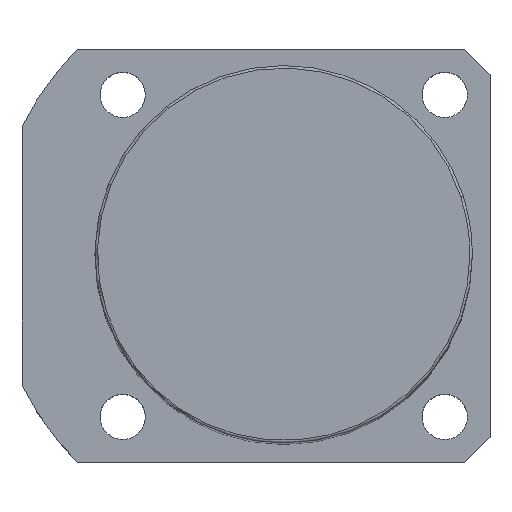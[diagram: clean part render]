
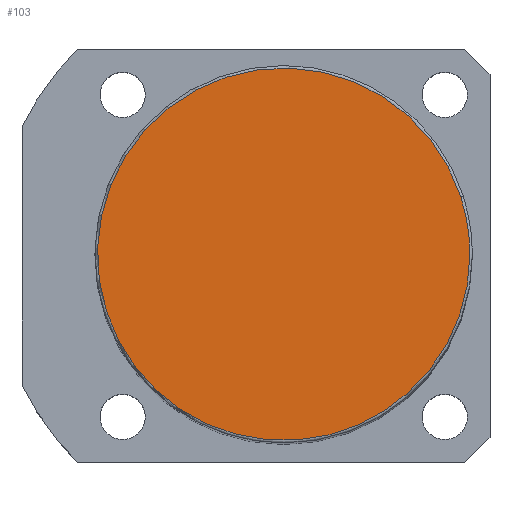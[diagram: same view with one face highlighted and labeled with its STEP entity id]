
A CAD part, top view. The second image highlights one B-rep face of the part: STEP entity #103.
In plain terms, the highlighted planar face has unit normal (0, 0, 1).
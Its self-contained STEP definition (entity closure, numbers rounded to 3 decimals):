
#16=CARTESIAN_POINT('',(-35.189,-11.434,198.0));
#17=VERTEX_POINT('',#16);
#54=CARTESIAN_POINT('',(35.189,11.434,198.0));
#55=VERTEX_POINT('',#54);
#63=CARTESIAN_POINT('',(37.0,0.0,198.0));
#64=VERTEX_POINT('',#63);
#65=CARTESIAN_POINT('',(0.0,0.0,198.0));
#66=DIRECTION('',(0.0,0.0,1.0));
#67=DIRECTION('',(1.0,0.0,0.0));
#68=AXIS2_PLACEMENT_3D('',#65,#66,#67);
#69=CIRCLE('',#68,37.0);
#70=EDGE_CURVE('no 898',#64,#55,#69,.T.);
#72=CARTESIAN_POINT('',(0.0,0.0,198.0));
#73=DIRECTION('',(0.0,0.0,1.0));
#74=DIRECTION('',(1.0,0.0,0.0));
#75=AXIS2_PLACEMENT_3D('',#72,#73,#74);
#76=CIRCLE('',#75,37.0);
#77=EDGE_CURVE('no 902',#17,#64,#76,.T.);
#87=ORIENTED_EDGE('',*,*,#70,.T.);
#88=CARTESIAN_POINT('',(0.0,0.0,198.0));
#89=DIRECTION('',(0.0,0.0,1.0));
#90=DIRECTION('',(1.0,0.0,0.0));
#91=AXIS2_PLACEMENT_3D('',#88,#89,#90);
#92=CIRCLE('',#91,37.0);
#93=EDGE_CURVE('no 911',#55,#17,#92,.T.);
#94=ORIENTED_EDGE('',*,*,#93,.T.);
#95=ORIENTED_EDGE('',*,*,#77,.T.);
#96=EDGE_LOOP('',(#87,#94,#95));
#97=FACE_OUTER_BOUND('',#96,.T.);
#98=CARTESIAN_POINT('',(0.0,0.0,198.0));
#99=DIRECTION('',(0.0,0.0,1.0));
#100=DIRECTION('',(1.0,0.0,0.0));
#101=AXIS2_PLACEMENT_3D('',#98,#99,#100);
#102=PLANE('',#101);
#103=ADVANCED_FACE('no 904',(#97),#102,.T.);
